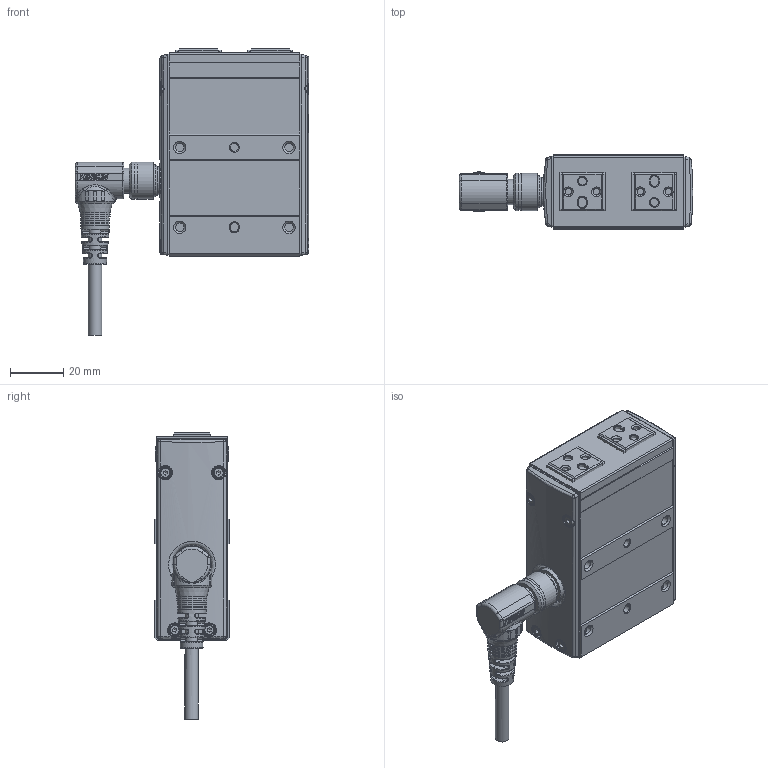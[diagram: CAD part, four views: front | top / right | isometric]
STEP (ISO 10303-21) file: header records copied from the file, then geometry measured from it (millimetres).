
FILE_DESCRIPTION(/* description */ (''),/* implementation_level */ '2;1');
FILE_NAME(/* name */ 'D:\2025.02.25 帶電匯整給泊舟\CHZ2-S10-WW.stp',/* time_stamp */ '2025-02-26T10:14:26+08:00',/* author */ ('T10033'),/* organization */ (''),/* preprocessor_version */ 'ST-DEVELOPER v18.1',/* originating_system */ 'Autodesk Inventor 2020',/* authorisation */ '');
FILE_SCHEMA (('CONFIG_CONTROL_DESIGN'));
Products named in the file (6): CHZ2-S10_已確認; 11003-001130_珠溝研磨(單顆); 12008-000058; 慶陞金屬頭; 7 32T634TSSE3R_Shrinkwrap_1; M12-14PIN 線端90度接頭-05中繼線
Assembly tree (9 placements, depth 2):
  CHZ2-S10_已確認
    11003-001130_珠溝研磨(單顆)  x2
    12008-000058  x4
    慶陞金屬頭
    7 32T634TSSE3R_Shrinkwrap_1
    M12-14PIN 線端90度接頭-05中繼線
Bounding box: 87.8 x 28 x 107.51 mm (x, y, z)
Volume: 118673.5 mm3; surface area: 37638.5 mm2
Topology: 35 solids, 39 shells, 2204 faces, 6015 edges, 3980 vertices
Faces by surface type: plane 1080, cylinder 492, cone 344, bspline 166, torus 102, sphere 20
Full cylindrical faces by diameter (mm): 0.6 x14, 0.65 x14, 1 x18, 1.567 x8, 2 x8, 2.013 x8, 2.459 x6, 3 x7, 3.242 x12, 3.8 x16, 4 x2, 5 x1, 5.5 x4, 6.647 x2, 8 x3, 8.9 x1, 9.5 x2, 9.6 x1, 10.5 x2, 10.9 x1, 11 x2, 11.2 x1, 11.25 x1, 12 x1, 13 x1, 13.8 x1, 14 x2, 14.4 x1
Entity records: 91367 total; most frequent: CARTESIAN_POINT 36014, ORIENTED_EDGE 11264, DIRECTION 11131, EDGE_CURVE 5640, AXIS2_PLACEMENT_3D 4233, VERTEX_POINT 3753, LINE 2665, VECTOR 2665
